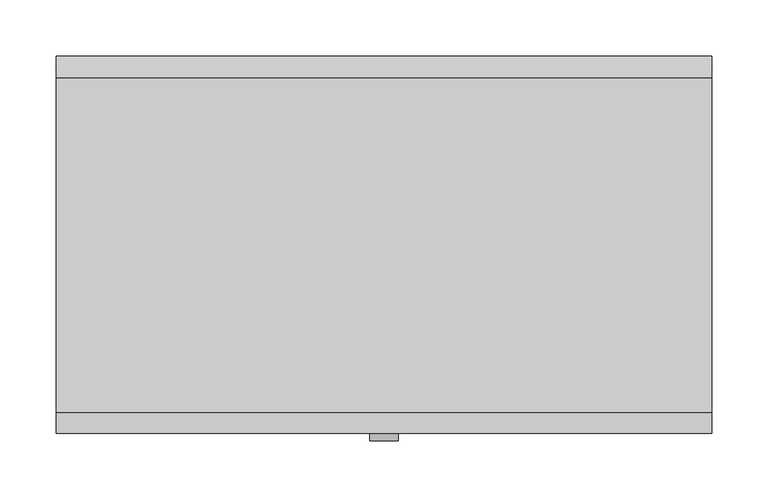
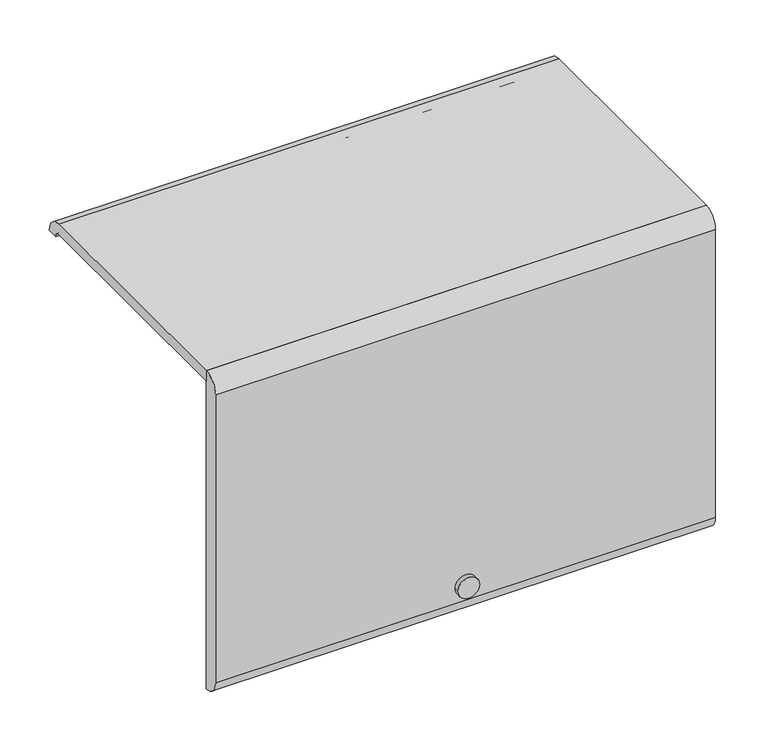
"""IFC4 building model written with IfcOpenShell, lengths in millimetres: furniture geometry, HermanMiller_ActionOffice_B-StyleFlipperDoor : Paint 15-1/2H x 13D x 24W."""

from ifc_helpers import new_model, si_unit, point, frame, frame_2d, origin, place, context, project, spatial, polyline, circle_curve, trimmed, segment, composite_curve, outline, extrude, source, transform, mapped, element, save


def furniture_a498aaf6(model_context):
    return source(origin(), model_context, "Body", "SweptSolid", [
        extrude(outline(composite_curve([segment(polyline([(-136.525, 2019.3), (-136.525, 2032.0), (161.925, 2032.0)]), True, "CONTINUOUS"), segment(trimmed(circle_curve(frame_2d((161.925, 2012.95)), 19.05), [point((161.925, 2032.0))], [point((180.975, 2012.95))], False, "CARTESIAN"), True, "CONTINUOUS"), segment(polyline([(180.975, 2012.95), (168.275, 2012.95)]), True, "CONTINUOUS"), segment(trimmed(circle_curve(frame_2d((161.925, 2012.95)), 6.35), [point((168.275, 2012.95))], [point((161.925, 2019.3))], True, "CARTESIAN"), True, "CONTINUOUS"), segment(polyline([(161.925, 2019.3), (-136.525, 2019.3)]), True, "CONTINUOUS")], self_intersect=False)), frame((-292.1, 0.0, 0.0), z_axis=(1.0, 0.0, 0.0), x_axis=(0.0, 1.0, 0.0)), (0.0, 0.0, 1.0), 584.2),
        extrude(outline(composite_curve([segment(trimmed(circle_curve(frame_2d((-136.525, 2012.95)), 19.05), [point((-155.575, 2012.95))], [point((-136.525, 2032.0))], False, "CARTESIAN"), True, "CONTINUOUS"), segment(polyline([(-136.525, 2032.0), (-136.525, 1638.3)]), True, "CONTINUOUS"), segment(trimmed(circle_curve(frame_2d((-136.525, 1657.35)), 19.05), [point((-136.525, 1638.3))], [point((-155.575, 1657.35))], False, "CARTESIAN"), True, "CONTINUOUS"), segment(polyline([(-155.575, 1657.35), (-155.575, 2012.95)]), True, "CONTINUOUS")], self_intersect=False)), frame((-292.1, 0.0, 0.0), z_axis=(1.0, 0.0, 0.0), x_axis=(0.0, 1.0, 0.0)), (0.0, 0.0, 1.0), 584.2),
        extrude(outline(composite_curve([segment(trimmed(circle_curve(frame_2d((1676.3618906, 0.0201199)), 12.7253951), [point((1676.3618906, 12.745515))], [point((1676.3618906, -12.7052752))], False, "CARTESIAN"), True, "CONTINUOUS"), segment(trimmed(circle_curve(frame_2d((1676.3618906, 0.0201199)), 12.7253951), [point((1676.3618906, -12.7052752))], [point((1676.3618906, 12.745515))], False, "CARTESIAN"), True, "CONTINUOUS")], self_intersect=False)), frame((0.0, -161.925, 0.0), z_axis=(0.0, 1.0, 0.0), x_axis=(0.0, 0.0, 1.0)), (0.0, 0.0, 1.0), 6.35),
    ])


if __name__ == "__main__":
    model = new_model("IFC4")
    model_context = context("Model", 3, world=origin())
    ifc_project = project(units=[si_unit("LENGTHUNIT", "METRE", prefix="MILLI")], contexts=[model_context])
    site = spatial("IfcSite", under=ifc_project)
    building = spatial("IfcBuilding", under=site)
    placement = place(None, origin())
    furniture_shape = furniture_a498aaf6(model_context)
    element("IfcFurniture", 1, ObjectType="HermanMiller_ActionOffice_B-StyleFlipperDoor : Paint 15-1/2H x 13D x 24W", at=placement, inside=building, context=model_context, shape_type="MappedRepresentation", body=[
        mapped(furniture_shape, transform((0.0, 0.0, 0.0), x_axis=(1.0, 0.0, 0.0), y_axis=(0.0, 1.0, 0.0), z_axis=(0.0, 0.0, 1.0))),
    ])
    save(model, "model.ifc")
